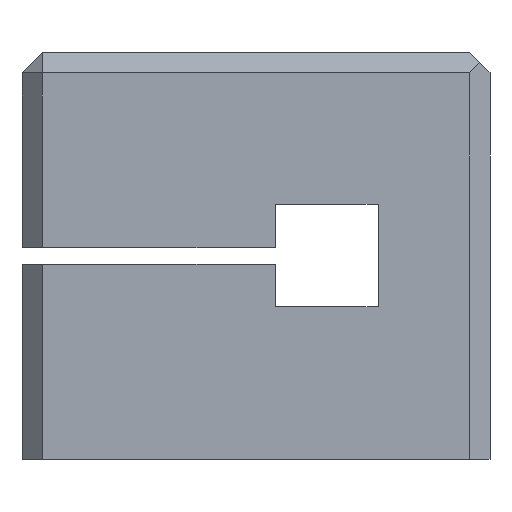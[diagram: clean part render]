
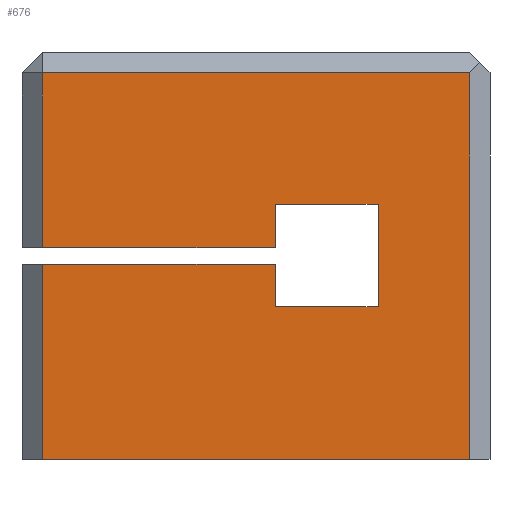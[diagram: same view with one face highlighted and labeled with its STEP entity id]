
A CAD part, left-side view. The second image highlights one B-rep face of the part: STEP entity #676.
In plain terms, the highlighted planar face has unit normal (-1, 0, 0).
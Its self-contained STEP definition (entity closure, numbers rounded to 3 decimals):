
#53=PLANE('',#753);
#83=FACE_OUTER_BOUND('',#124,.T.);
#124=EDGE_LOOP('',(#562,#563,#564,#565,#566,#567,#568,#569,#570,#571,#572,
#573));
#175=LINE('',#1062,#244);
#184=LINE('',#1082,#253);
#186=LINE('',#1086,#255);
#191=LINE('',#1100,#260);
#193=LINE('',#1104,#262);
#194=LINE('',#1106,#263);
#195=LINE('',#1108,#264);
#196=LINE('',#1110,#265);
#197=LINE('',#1112,#266);
#198=LINE('',#1113,#267);
#199=LINE('',#1115,#268);
#200=LINE('',#1116,#269);
#244=VECTOR('',#862,10.);
#253=VECTOR('',#879,10.);
#255=VECTOR('',#883,10.);
#260=VECTOR('',#898,10.);
#262=VECTOR('',#902,10.);
#263=VECTOR('',#903,10.);
#264=VECTOR('',#904,10.);
#265=VECTOR('',#905,10.);
#266=VECTOR('',#906,10.);
#267=VECTOR('',#907,10.);
#268=VECTOR('',#908,10.);
#269=VECTOR('',#909,10.);
#342=VERTEX_POINT('',#1059);
#343=VERTEX_POINT('',#1061);
#348=VERTEX_POINT('',#1075);
#350=VERTEX_POINT('',#1080);
#351=VERTEX_POINT('',#1085);
#355=VERTEX_POINT('',#1099);
#356=VERTEX_POINT('',#1103);
#357=VERTEX_POINT('',#1105);
#358=VERTEX_POINT('',#1107);
#359=VERTEX_POINT('',#1109);
#360=VERTEX_POINT('',#1111);
#361=VERTEX_POINT('',#1114);
#413=EDGE_CURVE('',#343,#342,#175,.T.);
#423=EDGE_CURVE('',#350,#348,#184,.T.);
#425=EDGE_CURVE('',#348,#351,#186,.T.);
#432=EDGE_CURVE('',#351,#355,#191,.T.);
#434=EDGE_CURVE('',#350,#356,#193,.T.);
#435=EDGE_CURVE('',#356,#357,#194,.T.);
#436=EDGE_CURVE('',#357,#358,#195,.T.);
#437=EDGE_CURVE('',#358,#359,#196,.T.);
#438=EDGE_CURVE('',#359,#360,#197,.T.);
#439=EDGE_CURVE('',#360,#343,#198,.T.);
#440=EDGE_CURVE('',#361,#342,#199,.T.);
#441=EDGE_CURVE('',#361,#355,#200,.T.);
#562=ORIENTED_EDGE('',*,*,#425,.F.);
#563=ORIENTED_EDGE('',*,*,#423,.F.);
#564=ORIENTED_EDGE('',*,*,#434,.T.);
#565=ORIENTED_EDGE('',*,*,#435,.T.);
#566=ORIENTED_EDGE('',*,*,#436,.T.);
#567=ORIENTED_EDGE('',*,*,#437,.T.);
#568=ORIENTED_EDGE('',*,*,#438,.T.);
#569=ORIENTED_EDGE('',*,*,#439,.T.);
#570=ORIENTED_EDGE('',*,*,#413,.T.);
#571=ORIENTED_EDGE('',*,*,#440,.F.);
#572=ORIENTED_EDGE('',*,*,#441,.T.);
#573=ORIENTED_EDGE('',*,*,#432,.F.);
#676=ADVANCED_FACE('',(#83),#53,.T.);
#753=AXIS2_PLACEMENT_3D('',#1102,#900,#901);
#862=DIRECTION('',(0.,1.,0.));
#879=DIRECTION('',(0.,0.,1.));
#883=DIRECTION('',(0.,-1.,0.));
#898=DIRECTION('',(0.,0.,-1.));
#900=DIRECTION('center_axis',(-1.,0.,0.));
#901=DIRECTION('ref_axis',(0.,-1.,0.));
#902=DIRECTION('',(0.,-1.,0.));
#903=DIRECTION('',(0.,0.,1.));
#904=DIRECTION('',(0.,-1.,0.));
#905=DIRECTION('',(0.,0.,-1.));
#906=DIRECTION('',(0.,1.,0.));
#907=DIRECTION('',(0.,0.,1.));
#908=DIRECTION('',(0.,0.,1.));
#909=DIRECTION('',(0.,-1.,0.));
#1059=CARTESIAN_POINT('',(0.,-1.,9.6));
#1061=CARTESIAN_POINT('',(0.,-12.45,9.6));
#1062=CARTESIAN_POINT('',(0.,-6.225,9.6));
#1075=CARTESIAN_POINT('',(0.,-1.,19.));
#1080=CARTESIAN_POINT('',(0.,-1.,10.4));
#1082=CARTESIAN_POINT('',(0.,-1.,0.));
#1085=CARTESIAN_POINT('',(0.,-22.,19.));
#1086=CARTESIAN_POINT('',(0.,-5.75,19.));
#1099=CARTESIAN_POINT('',(0.,-22.,0.));
#1100=CARTESIAN_POINT('',(0.,-22.,0.));
#1102=CARTESIAN_POINT('Origin',(0.,0.,0.));
#1103=CARTESIAN_POINT('',(0.,-12.45,10.4));
#1104=CARTESIAN_POINT('',(0.,0.,10.4));
#1105=CARTESIAN_POINT('',(0.,-12.45,12.55));
#1106=CARTESIAN_POINT('',(0.,-12.45,5.2));
#1107=CARTESIAN_POINT('',(0.,-17.5,12.55));
#1108=CARTESIAN_POINT('',(0.,-6.225,12.55));
#1109=CARTESIAN_POINT('',(0.,-17.5,7.5));
#1110=CARTESIAN_POINT('',(0.,-17.5,6.275));
#1111=CARTESIAN_POINT('',(0.,-12.45,7.5));
#1112=CARTESIAN_POINT('',(0.,-8.75,7.5));
#1113=CARTESIAN_POINT('',(0.,-12.45,3.75));
#1114=CARTESIAN_POINT('',(0.,-1.,0.));
#1115=CARTESIAN_POINT('',(0.,-1.,0.));
#1116=CARTESIAN_POINT('',(0.,0.,0.));
